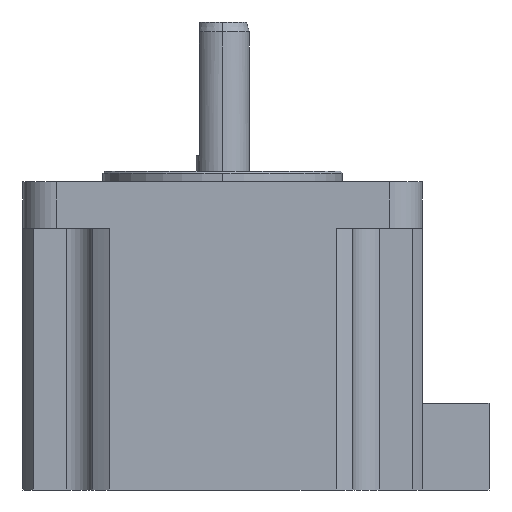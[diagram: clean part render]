
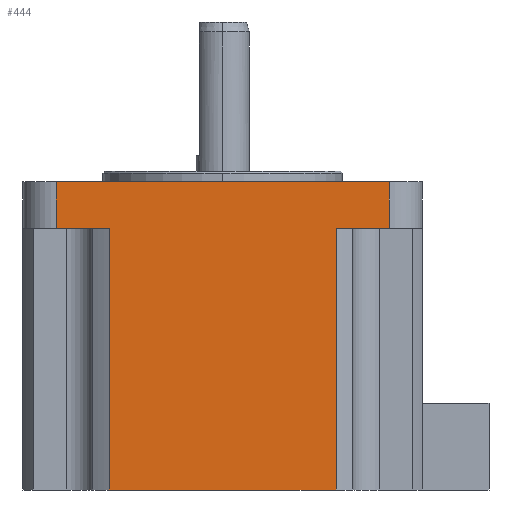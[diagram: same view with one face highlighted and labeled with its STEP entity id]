
A CAD part, left-side view. The second image highlights one B-rep face of the part: STEP entity #444.
In plain terms, the highlighted planar face has unit normal (-1, 0, 0).
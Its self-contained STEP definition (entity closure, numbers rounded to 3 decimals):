
#23 = VECTOR ( 'NONE', #722, 1000. ) ;
#48 = CARTESIAN_POINT ( 'NONE',  ( -30., 30., -1.6 ) ) ;
#53 = VERTEX_POINT ( 'NONE', #734 ) ;
#186 = DIRECTION ( 'NONE',  ( 0., 0., 1. ) ) ;
#228 = VECTOR ( 'NONE', #186, 1000. ) ;
#271 = LINE ( 'NONE', #48, #814 ) ;
#272 = DIRECTION ( 'NONE',  ( 0., 1., 0. ) ) ;
#279 = EDGE_CURVE ( 'NONE', #1069, #851, #1180, .T. ) ;
#286 = DIRECTION ( 'NONE',  ( 0., 1., 0. ) ) ;
#318 = VERTEX_POINT ( 'NONE', #1698 ) ;
#383 = VERTEX_POINT ( 'NONE', #1392 ) ;
#397 = CARTESIAN_POINT ( 'NONE',  ( -30., -25., -8.6 ) ) ;
#444 = ADVANCED_FACE ( 'NONE', ( #559 ), #961, .F. ) ;
#447 = DIRECTION ( 'NONE',  ( 0., 0., -1. ) ) ;
#454 = CARTESIAN_POINT ( 'NONE',  ( -30., 17.037, -47.9 ) ) ;
#458 = CARTESIAN_POINT ( 'NONE',  ( -30., 17.037, -8.6 ) ) ;
#462 = EDGE_CURVE ( 'NONE', #318, #1870, #901, .T. ) ;
#506 = DIRECTION ( 'NONE',  ( 1., 0., 0. ) ) ;
#518 = CARTESIAN_POINT ( 'NONE',  ( -30., 0., -47.9 ) ) ;
#520 = EDGE_CURVE ( 'NONE', #383, #1069, #745, .T. ) ;
#548 = DIRECTION ( 'NONE',  ( 0., 1., 0. ) ) ;
#559 = FACE_OUTER_BOUND ( 'NONE', #1878, .T. ) ;
#576 = ORIENTED_EDGE ( 'NONE', *, *, #955, .F. ) ;
#614 = AXIS2_PLACEMENT_3D ( 'NONE', #733, #506, #272 ) ;
#625 = LINE ( 'NONE', #397, #228 ) ;
#631 = VECTOR ( 'NONE', #1299, 1000. ) ;
#676 = CARTESIAN_POINT ( 'NONE',  ( -30., 25., -8.6 ) ) ;
#722 = DIRECTION ( 'NONE',  ( 0., 0., 1. ) ) ;
#733 = CARTESIAN_POINT ( 'NONE',  ( -30., 30., -8.6 ) ) ;
#734 = CARTESIAN_POINT ( 'NONE',  ( -30., -25., -1.6 ) ) ;
#745 = LINE ( 'NONE', #518, #2109 ) ;
#777 = CARTESIAN_POINT ( 'NONE',  ( -30., 30., -8.6 ) ) ;
#814 = VECTOR ( 'NONE', #1986, 1000. ) ;
#850 = CARTESIAN_POINT ( 'NONE',  ( -30., -25., -8.6 ) ) ;
#851 = VERTEX_POINT ( 'NONE', #458 ) ;
#901 = LINE ( 'NONE', #676, #1202 ) ;
#914 = CARTESIAN_POINT ( 'NONE',  ( -30., -17.037, -8.6 ) ) ;
#945 = CARTESIAN_POINT ( 'NONE',  ( -30., 17.037, -47.9 ) ) ;
#955 = EDGE_CURVE ( 'NONE', #1474, #2095, #1237, .T. ) ;
#961 = PLANE ( 'NONE',  #614 ) ;
#977 = EDGE_CURVE ( 'NONE', #851, #1870, #1719, .T. ) ;
#1069 = VERTEX_POINT ( 'NONE', #454 ) ;
#1088 = EDGE_CURVE ( 'NONE', #1474, #53, #625, .T. ) ;
#1122 = ORIENTED_EDGE ( 'NONE', *, *, #2061, .T. ) ;
#1180 = LINE ( 'NONE', #945, #23 ) ;
#1181 = ORIENTED_EDGE ( 'NONE', *, *, #977, .F. ) ;
#1202 = VECTOR ( 'NONE', #447, 1000. ) ;
#1237 = LINE ( 'NONE', #777, #1943 ) ;
#1271 = ORIENTED_EDGE ( 'NONE', *, *, #462, .T. ) ;
#1298 = ORIENTED_EDGE ( 'NONE', *, *, #1088, .T. ) ;
#1299 = DIRECTION ( 'NONE',  ( 0., 1., 0. ) ) ;
#1392 = CARTESIAN_POINT ( 'NONE',  ( -30., -17.037, -47.9 ) ) ;
#1414 = DIRECTION ( 'NONE',  ( 0., 0., 1. ) ) ;
#1447 = CARTESIAN_POINT ( 'NONE',  ( -30., 25., -8.6 ) ) ;
#1474 = VERTEX_POINT ( 'NONE', #850 ) ;
#1497 = ORIENTED_EDGE ( 'NONE', *, *, #279, .F. ) ;
#1504 = CARTESIAN_POINT ( 'NONE',  ( -30., 30., -8.6 ) ) ;
#1620 = CARTESIAN_POINT ( 'NONE',  ( -30., -17.037, -47.9 ) ) ;
#1698 = CARTESIAN_POINT ( 'NONE',  ( -30., 25., -1.6 ) ) ;
#1719 = LINE ( 'NONE', #1504, #631 ) ;
#1798 = VECTOR ( 'NONE', #1414, 1000. ) ;
#1838 = LINE ( 'NONE', #1620, #1798 ) ;
#1870 = VERTEX_POINT ( 'NONE', #1447 ) ;
#1878 = EDGE_LOOP ( 'NONE', ( #576, #1298, #1924, #1271, #1181, #1497, #2009, #1122 ) ) ;
#1924 = ORIENTED_EDGE ( 'NONE', *, *, #1931, .T. ) ;
#1931 = EDGE_CURVE ( 'NONE', #53, #318, #271, .T. ) ;
#1943 = VECTOR ( 'NONE', #548, 1000. ) ;
#1986 = DIRECTION ( 'NONE',  ( 0., 1., 0. ) ) ;
#2009 = ORIENTED_EDGE ( 'NONE', *, *, #520, .F. ) ;
#2061 = EDGE_CURVE ( 'NONE', #383, #2095, #1838, .T. ) ;
#2095 = VERTEX_POINT ( 'NONE', #914 ) ;
#2109 = VECTOR ( 'NONE', #286, 1000. ) ;
